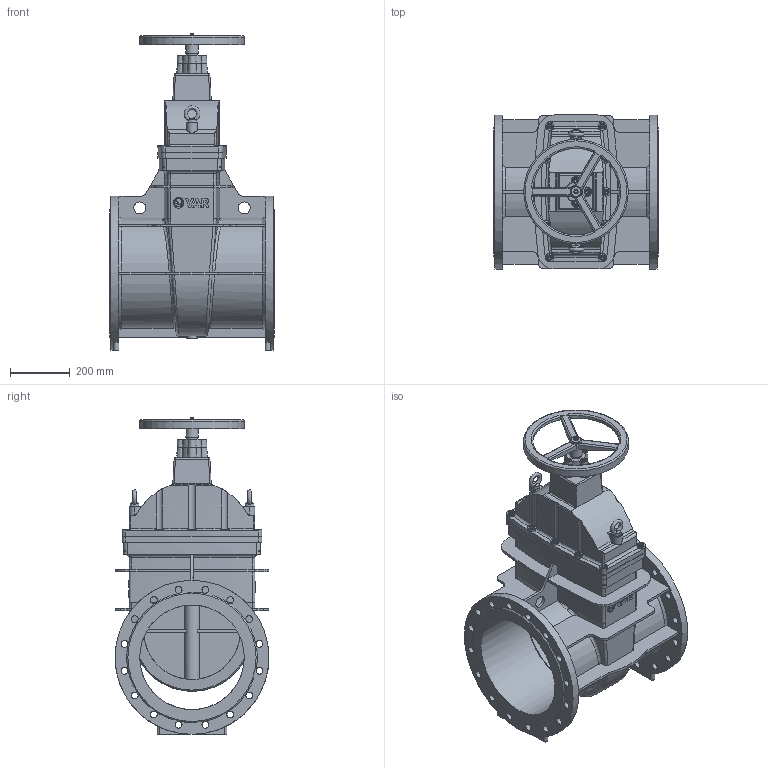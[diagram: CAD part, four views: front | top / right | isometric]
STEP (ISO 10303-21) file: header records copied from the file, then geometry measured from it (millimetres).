
FILE_DESCRIPTION(('STEP AP242'), '1');
FILE_NAME('青溻桄赅', '', ('UNSPECIFIED'), ('UNSPECIFIED'), 'C3D Converter', 'C3D Toolkit', '');
FILE_SCHEMA(('AP242_MANAGED_MODEL_BASED_3D_ENGINEERING_MIM_LF { 1 0 10303 442 1 1 4 }'));
Length unit declared in the file: millimetre
Assembly tree (25 placements, depth 2):
  (unnamed)
    (unnamed)
    (unnamed)
    (unnamed)
    (unnamed)
    (unnamed)  x2
    (unnamed)
    (unnamed)
    (unnamed)  x10
    (unnamed)  x4
    (unnamed)
    (unnamed)  x2
Bounding box: 550 x 515 x 1059.1 mm (x, y, z)
Volume: 29381105.7 mm3; surface area: 4716373.1 mm2
Topology: 28 solids, 28 shells, 1361 faces, 3476 edges, 2200 vertices
Faces by surface type: plane 612, cylinder 320, extrusion 165, cone 120, bspline 97, torus 47
Full cylindrical faces by diameter (mm): 6 x3, 10 x14, 12 x56, 18 x28, 23 x32, 35 x8, 35.64 x1, 40 x2, 52.667 x5, 290 x1, 300 x1, 323.5 x2, 340 x1, 350 x5, 381.8 x4, 403 x1, 515 x2
Entity records: 66369 total; most frequent: CARTESIAN_POINT 38029, ORIENTED_EDGE 5298, DIRECTION 4442, EDGE_CURVE 2649, VERTEX_POINT 1805, AXIS2_PLACEMENT_3D 1597, EDGE_LOOP 1444, VECTOR 1248
